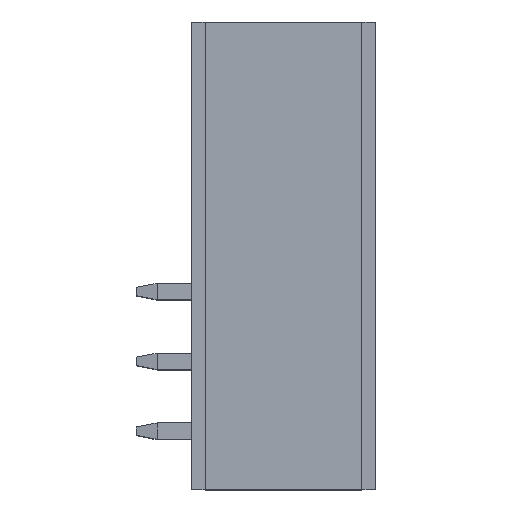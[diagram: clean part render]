
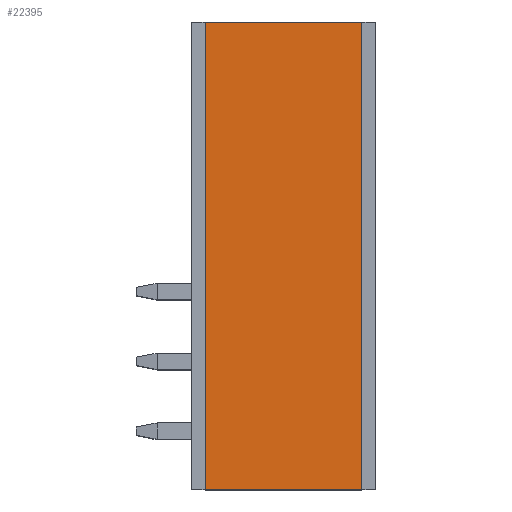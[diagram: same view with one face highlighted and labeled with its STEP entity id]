
A CAD part, top view. The second image highlights one B-rep face of the part: STEP entity #22395.
In plain terms, the highlighted planar face has unit normal (0, 0, 1).
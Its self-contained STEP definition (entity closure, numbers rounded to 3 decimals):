
#5877=DIRECTION('',(-1.,0.,0.));
#5878=VECTOR('',#5877,11.4);
#5879=CARTESIAN_POINT('',(16.4,34.,-11.782));
#5880=LINE('',#5879,#5878);
#5881=DIRECTION('',(0.,1.,0.));
#5882=VECTOR('',#5881,34.);
#5883=CARTESIAN_POINT('',(16.4,0.,-11.782));
#5884=LINE('',#5883,#5882);
#5885=DIRECTION('',(1.,0.,0.));
#5886=VECTOR('',#5885,11.4);
#5887=CARTESIAN_POINT('',(5.,0.,-11.782));
#5888=LINE('',#5887,#5886);
#5889=DIRECTION('',(0.,-1.,0.));
#5890=VECTOR('',#5889,34.);
#5891=CARTESIAN_POINT('',(5.,34.,-11.782));
#5892=LINE('',#5891,#5890);
#11063=CARTESIAN_POINT('',(16.4,34.,-11.782));
#11064=VERTEX_POINT('',#11063);
#11065=CARTESIAN_POINT('',(5.,34.,-11.782));
#11066=VERTEX_POINT('',#11065);
#11113=CARTESIAN_POINT('',(5.,0.,-11.782));
#11114=VERTEX_POINT('',#11113);
#11137=CARTESIAN_POINT('',(16.4,0.,-11.782));
#11138=VERTEX_POINT('',#11137);
#22383=CARTESIAN_POINT('',(29.966,34.,-11.782));
#22384=DIRECTION('',(0.,0.,-1.));
#22385=DIRECTION('',(-1.,0.,0.));
#22386=AXIS2_PLACEMENT_3D('',#22383,#22384,#22385);
#22387=PLANE('',#22386);
#22388=ORIENTED_EDGE('',*,*,#15787,.F.);
#22389=ORIENTED_EDGE('',*,*,#22365,.F.);
#22390=ORIENTED_EDGE('',*,*,#22352,.F.);
#22392=ORIENTED_EDGE('',*,*,#22391,.F.);
#22393=EDGE_LOOP('',(#22388,#22389,#22390,#22392));
#22394=FACE_OUTER_BOUND('',#22393,.F.);
#22395=ADVANCED_FACE('',(#22394),#22387,.F.);
#15787=EDGE_CURVE('',#11064,#11066,#5880,.T.);
#22352=EDGE_CURVE('',#11114,#11138,#5888,.T.);
#22365=EDGE_CURVE('',#11138,#11064,#5884,.T.);
#22391=EDGE_CURVE('',#11066,#11114,#5892,.T.);
